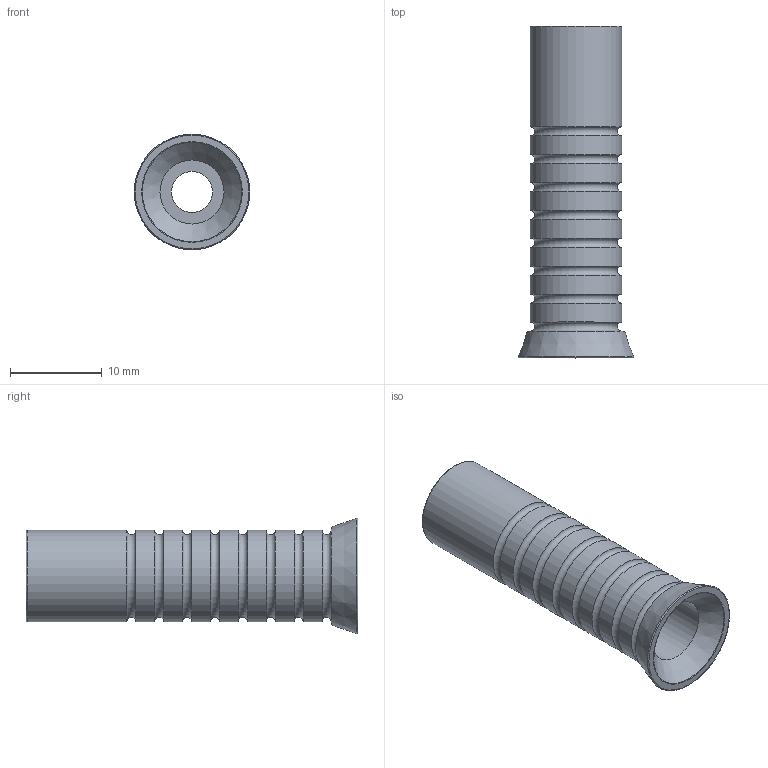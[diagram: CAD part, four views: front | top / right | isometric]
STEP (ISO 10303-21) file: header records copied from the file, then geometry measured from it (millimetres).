
FILE_DESCRIPTION (( 'STEP AP214' ), '1' );
FILE_NAME ('10f.013.004.01.STEP', '2025-12-11T13:06:11', ( '' ), ( '' ), 'SwSTEP 2.0', 'SolidWorks 2025', '' );
FILE_SCHEMA (( 'AUTOMOTIVE_DESIGN' ));
Length unit declared in the file: inch
Products named in the file (1): 10f.013.004.01
Bounding box: 12.62 x 36.25 x 12.62 mm (x, y, z)
Volume: 1517.3 mm3; surface area: 2191.1 mm2
Topology: 1 solids, 1 shells, 27 faces, 59 edges, 36 vertices
Faces by surface type: torus 11, cylinder 10, plane 4, cone 2
Full cylindrical faces by diameter (mm): 4.5 x1, 7 x1, 10 x8
Entity records: 575 total; most frequent: DIRECTION 110, CARTESIAN_POINT 82, AXIS2_PLACEMENT_3D 55, EDGE_LOOP 54, ORIENTED_EDGE 54, FACE_OUTER_BOUND 48, EDGE_CURVE 27, VERTEX_POINT 27
